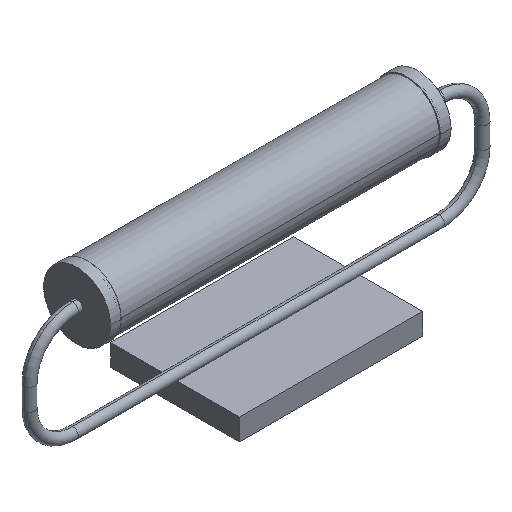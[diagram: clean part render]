
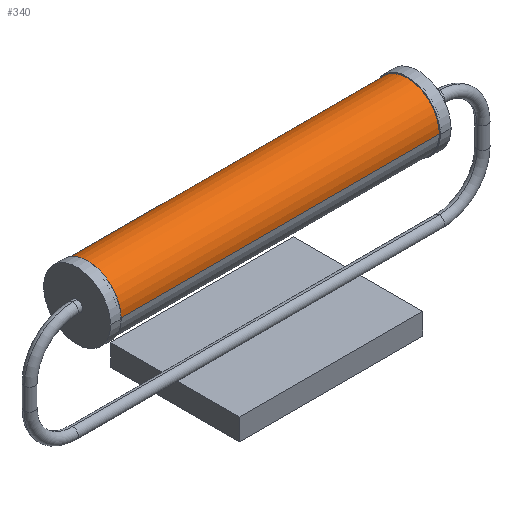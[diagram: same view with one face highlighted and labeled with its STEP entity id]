
A CAD part, isometric view. The second image highlights one B-rep face of the part: STEP entity #340.
In plain terms, the highlighted cylindrical face has radius 30 mm (diameter 60 mm), a partial arc.
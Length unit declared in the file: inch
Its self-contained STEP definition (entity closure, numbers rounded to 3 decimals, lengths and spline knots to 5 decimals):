
#44 = DIRECTION ( 'NONE',  ( 1., 0., 0. ) ) ;
#58 = ORIENTED_EDGE ( 'NONE', *, *, #1244, .T. ) ;
#72 = LINE ( 'NONE', #938, #140 ) ;
#75 = CARTESIAN_POINT ( 'NONE',  ( 7.32283, 0., 0. ) ) ;
#116 = DIRECTION ( 'NONE',  ( 0., 1., 0. ) ) ;
#129 = EDGE_LOOP ( 'NONE', ( #198, #58, #904, #851 ) ) ;
#133 = DIRECTION ( 'NONE',  ( 0., -1., 0. ) ) ;
#140 = VECTOR ( 'NONE', #256, 39.37008 ) ;
#198 = ORIENTED_EDGE ( 'NONE', *, *, #1344, .F. ) ;
#209 = CIRCLE ( 'NONE', #1170, 1.1811 ) ;
#256 = DIRECTION ( 'NONE',  ( -1., 0., 0. ) ) ;
#274 = VERTEX_POINT ( 'NONE', #855 ) ;
#337 = AXIS2_PLACEMENT_3D ( 'NONE', #441, #1013, #133 ) ;
#340 = ADVANCED_FACE ( 'NONE', ( #1337 ), #994, .T. ) ;
#441 = CARTESIAN_POINT ( 'NONE',  ( 7.32283, 0., 0. ) ) ;
#468 = DIRECTION ( 'NONE',  ( 0., 1., 0. ) ) ;
#490 = EDGE_CURVE ( 'NONE', #274, #1246, #72, .T. ) ;
#494 = VECTOR ( 'NONE', #591, 39.37008 ) ;
#564 = CIRCLE ( 'NONE', #709, 1.1811 ) ;
#591 = DIRECTION ( 'NONE',  ( -1., 0., 0. ) ) ;
#709 = AXIS2_PLACEMENT_3D ( 'NONE', #75, #1386, #116 ) ;
#851 = ORIENTED_EDGE ( 'NONE', *, *, #490, .F. ) ;
#855 = CARTESIAN_POINT ( 'NONE',  ( 7.32283, -1.1811, 0. ) ) ;
#872 = EDGE_CURVE ( 'NONE', #930, #1246, #209, .T. ) ;
#904 = ORIENTED_EDGE ( 'NONE', *, *, #872, .T. ) ;
#916 = CARTESIAN_POINT ( 'NONE',  ( -4.48819, 0., 0. ) ) ;
#930 = VERTEX_POINT ( 'NONE', #1044 ) ;
#938 = CARTESIAN_POINT ( 'NONE',  ( 7.32283, -1.1811, 0. ) ) ;
#994 = CYLINDRICAL_SURFACE ( 'NONE', #337, 1.1811 ) ;
#1013 = DIRECTION ( 'NONE',  ( -1., 0., 0. ) ) ;
#1044 = CARTESIAN_POINT ( 'NONE',  ( -4.48819, 1.1811, 0. ) ) ;
#1141 = LINE ( 'NONE', #1231, #494 ) ;
#1170 = AXIS2_PLACEMENT_3D ( 'NONE', #916, #44, #468 ) ;
#1177 = CARTESIAN_POINT ( 'NONE',  ( 7.32283, 1.1811, 0. ) ) ;
#1231 = CARTESIAN_POINT ( 'NONE',  ( 7.32283, 1.1811, 0. ) ) ;
#1244 = EDGE_CURVE ( 'NONE', #1285, #930, #1141, .T. ) ;
#1246 = VERTEX_POINT ( 'NONE', #1252 ) ;
#1252 = CARTESIAN_POINT ( 'NONE',  ( -4.48819, -1.1811, 0. ) ) ;
#1285 = VERTEX_POINT ( 'NONE', #1177 ) ;
#1337 = FACE_OUTER_BOUND ( 'NONE', #129, .T. ) ;
#1344 = EDGE_CURVE ( 'NONE', #1285, #274, #564, .T. ) ;
#1386 = DIRECTION ( 'NONE',  ( 1., 0., 0. ) ) ;
